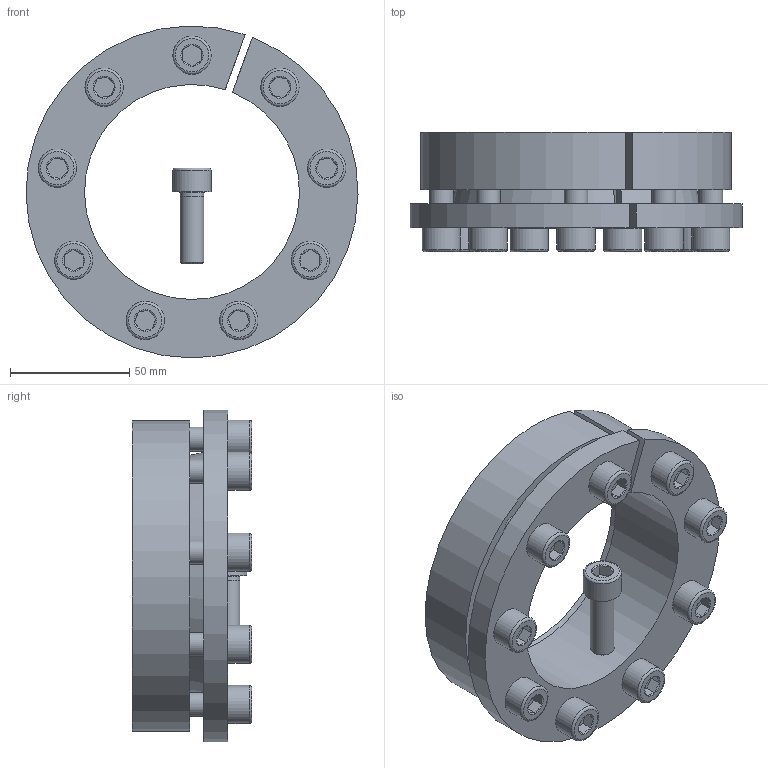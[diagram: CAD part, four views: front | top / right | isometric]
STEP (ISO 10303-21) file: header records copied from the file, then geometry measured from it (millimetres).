
FILE_DESCRIPTION( ( 'Unknown' ), '1' );
FILE_NAME( 'C:/Dokumente und Einstellungen/Sven/Desktop/homepage/cad - homepage/KBS16/KBS 16 - 90 x 130.stp', 'Unknown', ( 'Unknown' ), ( 'Unknown' ), 'XStep 1.0', 'Unknown', ' ' );
FILE_SCHEMA( ( 'automotive_design' ) );
Length unit declared in the file: millimetre
Products named in the file (3): Assem1; KBS 16 - 90 x 130; ISO EN DIN 4762 M10x30
Bounding box: 138.99 x 50 x 138.98 mm (x, y, z)
Volume: 516556.8 mm3; surface area: 146168.9 mm2
Topology: 12 solids, 12 shells, 310 faces, 616 edges, 370 vertices
Faces by surface type: plane 134, cylinder 82, cone 74, torus 20
Full cylindrical faces by diameter (mm): 9 x10, 10 x56, 16 x10
Entity records: 1848 total; most frequent: CARTESIAN_POINT 304, DIRECTION 286, ORIENTED_EDGE 202, AXIS2_PLACEMENT_3D 129, EDGE_LOOP 120, EDGE_CURVE 101, FACE_OUTER_BOUND 79, VERTEX_POINT 79
